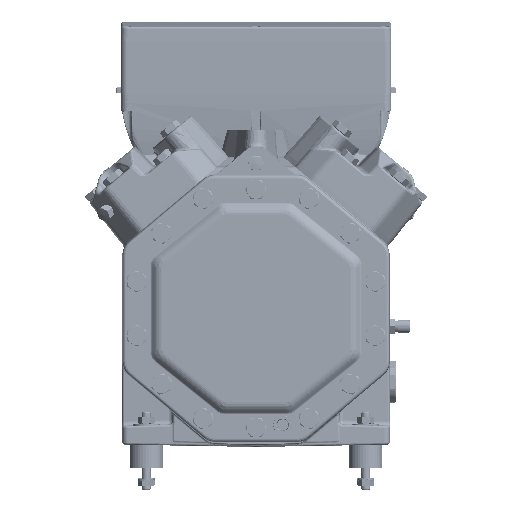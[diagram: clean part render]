
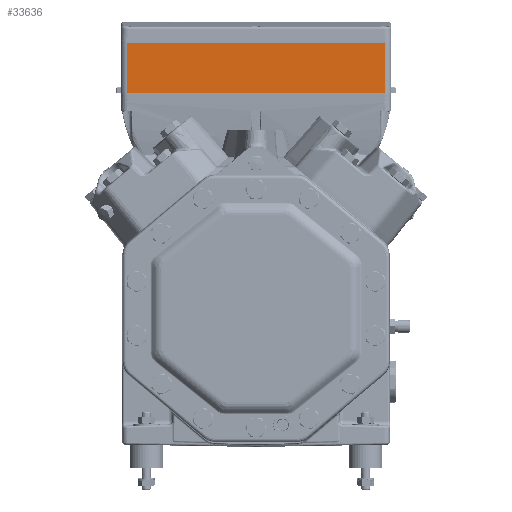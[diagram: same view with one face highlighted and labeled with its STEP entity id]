
A CAD part, left-side view. The second image highlights one B-rep face of the part: STEP entity #33636.
In plain terms, the highlighted planar face has unit normal (-1, 0, 0) as drawn and (1, 0, 0) by its records, which use the part's own axes.
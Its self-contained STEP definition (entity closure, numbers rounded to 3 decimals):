
#10135=PLANE('',#99067);
#13789=FACE_OUTER_BOUND('',#41570,.T.);
#24682=LINE('',#157552,#29190);
#24782=LINE('',#158182,#29290);
#24783=LINE('',#158185,#29291);
#24784=LINE('',#158186,#29292);
#29190=VECTOR('',#115019,1.);
#29290=VECTOR('',#115303,1.);
#29291=VECTOR('',#115304,1.);
#29292=VECTOR('',#115305,1.);
#33636=ADVANCED_FACE('',(#13789),#10135,.T.);
#41570=EDGE_LOOP('',(#59328,#59329,#59330,#59331));
#59328=ORIENTED_EDGE('',*,*,#85765,.F.);
#59329=ORIENTED_EDGE('',*,*,#85766,.T.);
#59330=ORIENTED_EDGE('',*,*,#85569,.T.);
#59331=ORIENTED_EDGE('',*,*,#85767,.T.);
#74515=VERTEX_POINT('',#157551);
#74516=VERTEX_POINT('',#157553);
#74694=VERTEX_POINT('',#158183);
#74695=VERTEX_POINT('',#158184);
#85569=EDGE_CURVE('',#74516,#74515,#24682,.T.);
#85765=EDGE_CURVE('',#74694,#74695,#24782,.T.);
#85766=EDGE_CURVE('',#74694,#74516,#24783,.T.);
#85767=EDGE_CURVE('',#74515,#74695,#24784,.T.);
#99067=AXIS2_PLACEMENT_3D('',#158187,#115306,#115307);
#115019=DIRECTION('',(0.,1.,0.));
#115303=DIRECTION('',(0.,1.,0.));
#115304=DIRECTION('',(0.,0.,-1.));
#115305=DIRECTION('',(0.,0.,1.));
#115306=DIRECTION('',(1.,0.,0.));
#115307=DIRECTION('',(0.,0.,1.));
#157551=CARTESIAN_POINT('',(73.,116.,66.));
#157552=CARTESIAN_POINT('',(73.,0.,66.));
#157553=CARTESIAN_POINT('',(73.,-116.,66.));
#158182=CARTESIAN_POINT('',(73.,0.,111.5));
#158183=CARTESIAN_POINT('',(73.,-116.,111.5));
#158184=CARTESIAN_POINT('',(73.,116.,111.5));
#158185=CARTESIAN_POINT('',(73.,-116.,114.));
#158186=CARTESIAN_POINT('',(73.,116.,114.));
#158187=CARTESIAN_POINT('',(73.,0.,114.));
